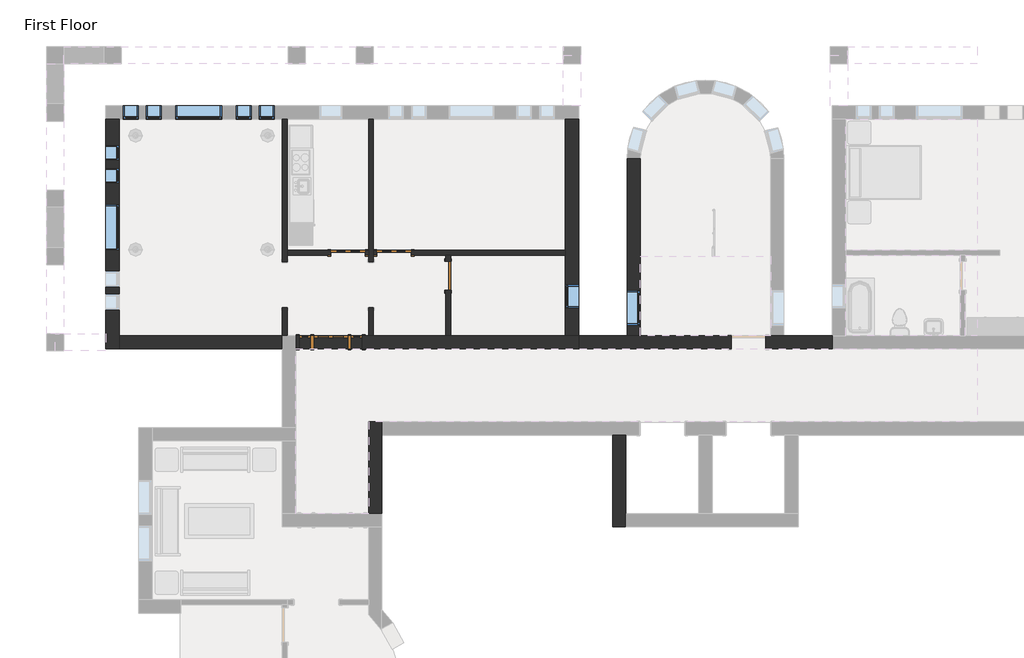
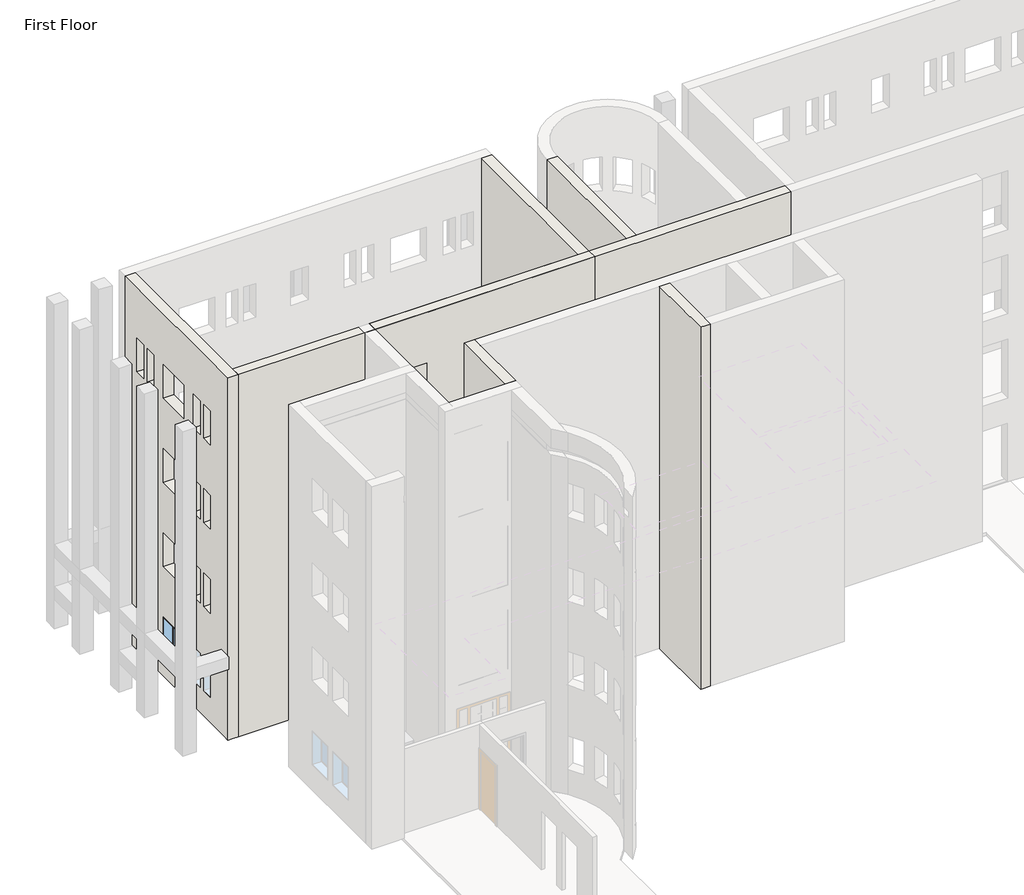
# One storey, part 14 of 24: 12 walls, 10 windows, 4 doors.
"""IFC4 building model written with IfcOpenShell, lengths in millimetres."""

from ifc_helpers import new_model, si_unit, frame, origin, place, context, project, spatial, polyline, outline, extrude, faceted_brep, transform, mapped, element, save
from components import door_829da954, door_2e3b4da2, door_e36758a9, door_ffdb1193, window_da97879f, window_d61ef850, window_ed80354a, window_15c49d37, window_d89bf842

model = new_model("IFC4")

# Units and contexts
model_context = context("Model", 3, world=origin())
ifc_project = project(units=[si_unit("LENGTHUNIT", "METRE", prefix="MILLI")], contexts=[model_context])

# Site, building, storey
site = spatial("IfcSite", under=ifc_project)
building = spatial("IfcBuilding", under=site)
storey = spatial("IfcBuildingStorey", under=building, Name="First Floor", Elevation=0.0)

# Doors
placement = place(None, origin())
door_shape = door_829da954(model_context)
element("IfcDoor", 1, ObjectType="Single-Decorative 2 : 36\" x 84\"", at=placement, inside=storey, context=model_context, shape_type="MappedRepresentation", body=[
    mapped(door_shape, transform((-23201.2839563, 6723.5441867, 0.0), x_axis=(-1.0, 0.0, 0.0), y_axis=(0.0, -1.0, 0.0), z_axis=(0.0, 0.0, 1.0))),
])
door_2_shape = door_2e3b4da2(model_context)
element("IfcDoor", 2, ObjectType="Single-Decorative 2 : 36\" x 84\"", at=placement, inside=storey, context=model_context, shape_type="MappedRepresentation", body=[
    mapped(door_2_shape, transform((-24420.4839563, 6723.5441867, 0.0), x_axis=(1.0, 0.0, 0.0), y_axis=(0.0, 1.0, 0.0), z_axis=(0.0, 0.0, 1.0))),
])
door_3_shape = door_e36758a9(model_context)
element("IfcDoor", 3, ObjectType="Single-Flush : 30\" x 84\"", at=placement, inside=storey, context=model_context, shape_type="MappedRepresentation", body=[
    mapped(door_3_shape, transform((-21764.5964563, 6113.9441867, 0.0), x_axis=(0.0, 1.0, 0.0), y_axis=(-1.0, 0.0, 0.0), z_axis=(0.0, 0.0, 1.0))),
])
door_4_shape = door_ffdb1193(model_context)
element("IfcDoor", 4, ObjectType="Single-Raised Panel with Sidelights : 36\" x 84\"", at=placement, inside=storey, context=model_context, shape_type="MappedRepresentation", body=[
    mapped(door_4_shape, transform((-24877.6839563, 4350.2316867, 0.0), x_axis=(1.0, 0.0, 0.0), y_axis=(0.0, 1.0, 0.0), z_axis=(0.0, 0.0, 1.0))),
])

# Walls
element("IfcWall", 5, ObjectType="Exterior - Brick on Mtl. Stud", at=placement, inside=storey, context=model_context, shape_type="Brep", body=[
    faceted_brep([(-17397.3839563, 1888.0191867, 0.0), (-17397.3839563, -550.3808133, 0.0), (-17397.3839563, -550.3808133, 13106.4), (-17397.3839563, 1888.0191867, 13106.4), (-17044.9589563, 1888.0191867, 0.0), (-17044.9589563, 1888.0191867, 13106.4), (-17044.9589563, -197.9558133, 13106.4), (-17044.9589563, -550.3808133, 13106.4), (-17044.9589563, -550.3808133, 0.0), (-17044.9589563, -197.9558133, 0.0)], [[[0, 1, 2, 3]], [[4, 5, 6, 7, 8, 9]], [[1, 0, 4, 9, 8]], [[3, 2, 7, 6, 5]], [[2, 1, 8, 7]], [[0, 3, 5, 4]]]),
])
element("IfcWall", 6, ObjectType="Exterior - Brick on Mtl. Stud", at=placement, inside=storey, context=model_context, shape_type="SweptSolid", body=[
    extrude(outline(polyline([(4526.4441867, 0.0), (4526.4441867, 13106.4), (9227.0316867, 13106.4), (9227.0316867, 0.0), (4526.4441867, 0.0)]), holes=[polyline([(4807.4316867, 8229.6), (4807.4316867, 7010.4), (5721.8316867, 7010.4), (5721.8316867, 8229.6), (4807.4316867, 8229.6)]), polyline([(4807.4316867, 5181.6), (4807.4316867, 3962.4), (5721.8316867, 3962.4), (5721.8316867, 5181.6), (4807.4316867, 5181.6)]), polyline([(4807.4316867, 11277.6), (4807.4316867, 10058.4), (5721.8316867, 10058.4), (5721.8316867, 11277.6), (4807.4316867, 11277.6)]), polyline([(4807.4316867, 2133.6), (4807.4316867, 914.4), (5721.8316867, 914.4), (5721.8316867, 2133.6), (4807.4316867, 2133.6)])]), frame((-17016.3839563, 0.0, 0.0), z_axis=(1.0, 0.0, 0.0), x_axis=(0.0, 1.0, 0.0)), (0.0, 0.0, 1.0), 352.425),
])
element("IfcWall", 7, ObjectType="Exterior - Brick on Mtl. Stud", at=placement, inside=storey, context=model_context, shape_type="Brep", body=[
    faceted_brep([(-23874.3839563, 2240.4441867, 0.0), (-23874.3839563, -197.9558133, 0.0), (-23874.3839563, -197.9558133, 13106.4), (-23874.3839563, 2240.4441867, 13106.4), (-23521.9589563, 2240.4441867, 0.0), (-23521.9589563, 2240.4441867, 13106.4), (-23521.9589563, 1888.0191867, 13106.4), (-23521.9589563, -197.9558133, 13106.4), (-23521.9589563, -197.9558133, 0.0), (-23521.9589563, 1888.0191867, 0.0)], [[[0, 1, 2, 3]], [[4, 5, 6, 7, 8, 9]], [[1, 0, 4, 9, 8]], [[3, 2, 7, 6, 5]], [[0, 3, 5, 4]], [[2, 1, 8, 7]]]),
])
element("IfcWall", 8, ObjectType="Exterior - Brick on Mtl. Stud", at=placement, inside=storey, context=model_context, shape_type="Brep", body=[
    faceted_brep([(-11571.2589563, 4526.4441867, 0.0), (-12853.9589563, 4526.4441867, 0.0), (-13206.3839563, 4526.4441867, 0.0), (-13334.9714563, 4526.4441867, 0.0), (-13334.9714563, 4526.4441867, 2133.6), (-14249.3714563, 4526.4441867, 2133.6), (-14249.3714563, 4526.4441867, 0.0), (-16663.9589563, 4526.4441867, 0.0), (-17016.3839563, 4526.4441867, 0.0), (-18300.6714563, 4526.4441867, 0.0), (-18653.0964563, 4526.4441867, 0.0), (-21701.0964563, 4526.4441867, 0.0), (-21828.0964563, 4526.4441867, 0.0), (-23747.3839563, 4526.4441867, 0.0), (-23874.3839563, 4526.4441867, 0.0), (-25807.9589563, 4526.4441867, 0.0), (-25807.9589563, 4526.4441867, 13106.4), (-18653.0964563, 4526.4441867, 13106.4), (-18300.6714563, 4526.4441867, 13106.4), (-17016.3839563, 4526.4441867, 13106.4), (-16663.9589563, 4526.4441867, 13106.4), (-13206.3839563, 4526.4441867, 13106.4), (-12853.9589563, 4526.4441867, 13106.4), (-11571.2589563, 4526.4441867, 13106.4), (-14249.3714563, 4526.4441867, 9144.0), (-13334.9714563, 4526.4441867, 9144.0), (-13334.9714563, 4526.4441867, 11277.6), (-14249.3714563, 4526.4441867, 11277.6), (-14249.3714563, 4526.4441867, 3048.0), (-13334.9714563, 4526.4441867, 3048.0), (-13334.9714563, 4526.4441867, 5181.6), (-14249.3714563, 4526.4441867, 5181.6), (-14249.3714563, 4526.4441867, 6096.0), (-13334.9714563, 4526.4441867, 6096.0), (-13334.9714563, 4526.4441867, 8229.6), (-14249.3714563, 4526.4441867, 8229.6), (-13334.9714563, 4174.0191867, 2133.6), (-13334.9714563, 4174.0191867, 0.0), (-11571.2589563, 4174.0191867, 0.0), (-11571.2589563, 4174.0191867, 13106.4), (-25807.9589563, 4174.0191867, 13106.4), (-25807.9589563, 4174.0191867, 0.0), (-14249.3714563, 4174.0191867, 0.0), (-14249.3714563, 4174.0191867, 2133.6), (-14249.3714563, 4174.0191867, 9144.0), (-14249.3714563, 4174.0191867, 11277.6), (-13334.9714563, 4174.0191867, 11277.6), (-13334.9714563, 4174.0191867, 9144.0), (-14249.3714563, 4174.0191867, 3048.0), (-14249.3714563, 4174.0191867, 5181.6), (-13334.9714563, 4174.0191867, 5181.6), (-13334.9714563, 4174.0191867, 3048.0), (-14249.3714563, 4174.0191867, 6096.0), (-14249.3714563, 4174.0191867, 8229.6), (-13334.9714563, 4174.0191867, 8229.6), (-13334.9714563, 4174.0191867, 6096.0)], [[[0, 1, 2, 3, 4, 5, 6, 7, 8, 9, 10, 11, 12, 13, 14, 15, 16, 17, 18, 19, 20, 21, 22, 23], [24, 25, 26, 27], [28, 29, 30, 31], [32, 33, 34, 35]], [[36, 37, 38, 39, 40, 41, 42, 43], [44, 45, 46, 47], [48, 49, 50, 51], [52, 53, 54, 55]], [[38, 37, 3, 2, 1, 0]], [[42, 41, 15, 14, 13, 12, 11, 10, 9, 8, 7, 6]], [[23, 22, 21, 20, 19, 18, 17, 16, 40, 39]], [[0, 23, 39, 38]], [[16, 15, 41, 40]], [[4, 3, 37, 36]], [[5, 4, 36, 43]], [[6, 5, 43, 42]], [[25, 24, 44, 47]], [[26, 25, 47, 46]], [[27, 26, 46, 45]], [[24, 27, 45, 44]], [[29, 28, 48, 51]], [[30, 29, 51, 50]], [[31, 30, 50, 49]], [[28, 31, 49, 48]], [[33, 32, 52, 55]], [[34, 33, 55, 54]], [[35, 34, 54, 53]], [[32, 35, 53, 52]]]),
])
element("IfcWall", 9, ObjectType="Exterior - Brick on Mtl. Stud", at=placement, inside=storey, context=model_context, shape_type="Brep", body=[
    faceted_brep([(-30845.0964563, 10270.0191867, 0.0), (-30845.0964563, 4361.3441867, 0.0), (-30845.0964563, 4174.0191867, 0.0), (-30845.0964563, 4174.0191867, 13106.4), (-30845.0964563, 10270.0191867, 13106.4), (-30845.0964563, 8007.8316867, 2133.6), (-30845.0964563, 6788.6316867, 2133.6), (-30845.0964563, 6788.6316867, 914.4), (-30845.0964563, 8007.8316867, 914.4), (-30845.0964563, 9582.6316867, 2133.6), (-30845.0964563, 9176.2316867, 2133.6), (-30845.0964563, 9176.2316867, 914.4), (-30845.0964563, 9582.6316867, 914.4), (-30845.0964563, 8973.0316867, 2133.6), (-30845.0964563, 8566.6316867, 2133.6), (-30845.0964563, 8566.6316867, 914.4), (-30845.0964563, 8973.0316867, 914.4), (-30845.0964563, 5213.8316867, 2133.6), (-30845.0964563, 5213.8316867, 914.4), (-30845.0964563, 5620.2316867, 914.4), (-30845.0964563, 5620.2316867, 2133.6), (-30845.0964563, 5823.4316867, 2133.6), (-30845.0964563, 5823.4316867, 914.4), (-30845.0964563, 6229.8316867, 914.4), (-30845.0964563, 6229.8316867, 2133.6), (-30845.0964563, 8007.8316867, 11277.6), (-30845.0964563, 6788.6316867, 11277.6), (-30845.0964563, 6788.6316867, 10058.4), (-30845.0964563, 8007.8316867, 10058.4), (-30845.0964563, 9582.6316867, 11277.6), (-30845.0964563, 9176.2316867, 11277.6), (-30845.0964563, 9176.2316867, 10058.4), (-30845.0964563, 9582.6316867, 10058.4), (-30845.0964563, 8973.0316867, 11277.6), (-30845.0964563, 8566.6316867, 11277.6), (-30845.0964563, 8566.6316867, 10058.4), (-30845.0964563, 8973.0316867, 10058.4), (-30845.0964563, 5213.8316867, 11277.6), (-30845.0964563, 5213.8316867, 10058.4), (-30845.0964563, 5620.2316867, 10058.4), (-30845.0964563, 5620.2316867, 11277.6), (-30845.0964563, 5823.4316867, 11277.6), (-30845.0964563, 5823.4316867, 10058.4), (-30845.0964563, 6229.8316867, 10058.4), (-30845.0964563, 6229.8316867, 11277.6), (-30845.0964563, 8007.8316867, 5181.6), (-30845.0964563, 6788.6316867, 5181.6), (-30845.0964563, 6788.6316867, 3962.4), (-30845.0964563, 8007.8316867, 3962.4), (-30845.0964563, 9582.6316867, 5181.6), (-30845.0964563, 9176.2316867, 5181.6), (-30845.0964563, 9176.2316867, 3962.4), (-30845.0964563, 9582.6316867, 3962.4), (-30845.0964563, 8973.0316867, 5181.6), (-30845.0964563, 8566.6316867, 5181.6), (-30845.0964563, 8566.6316867, 3962.4), (-30845.0964563, 8973.0316867, 3962.4), (-30845.0964563, 5213.8316867, 5181.6), (-30845.0964563, 5213.8316867, 3962.4), (-30845.0964563, 5620.2316867, 3962.4), (-30845.0964563, 5620.2316867, 5181.6), (-30845.0964563, 5823.4316867, 5181.6), (-30845.0964563, 5823.4316867, 3962.4), (-30845.0964563, 6229.8316867, 3962.4), (-30845.0964563, 6229.8316867, 5181.6), (-30845.0964563, 8007.8316867, 8229.6), (-30845.0964563, 6788.6316867, 8229.6), (-30845.0964563, 6788.6316867, 7010.4), (-30845.0964563, 8007.8316867, 7010.4), (-30845.0964563, 9582.6316867, 8229.6), (-30845.0964563, 9176.2316867, 8229.6), (-30845.0964563, 9176.2316867, 7010.4), (-30845.0964563, 9582.6316867, 7010.4), (-30845.0964563, 8973.0316867, 8229.6), (-30845.0964563, 8566.6316867, 8229.6), (-30845.0964563, 8566.6316867, 7010.4), (-30845.0964563, 8973.0316867, 7010.4), (-30845.0964563, 5213.8316867, 8229.6), (-30845.0964563, 5213.8316867, 7010.4), (-30845.0964563, 5620.2316867, 7010.4), (-30845.0964563, 5620.2316867, 8229.6), (-30845.0964563, 5823.4316867, 8229.6), (-30845.0964563, 5823.4316867, 7010.4), (-30845.0964563, 6229.8316867, 7010.4), (-30845.0964563, 6229.8316867, 8229.6), (-30492.6714563, 10270.0191867, 0.0), (-30492.6714563, 10270.0191867, 13106.4), (-30492.6714563, 4526.4441867, 13106.4), (-30492.6714563, 4174.0191867, 13106.4), (-30492.6714563, 4174.0191867, 0.0), (-30492.6714563, 4361.3441867, 0.0), (-30492.6714563, 4526.4441867, 0.0), (-30492.6714563, 8007.8316867, 2133.6), (-30492.6714563, 8007.8316867, 914.4), (-30492.6714563, 6788.6316867, 914.4), (-30492.6714563, 6788.6316867, 2133.6), (-30492.6714563, 9582.6316867, 2133.6), (-30492.6714563, 9582.6316867, 914.4), (-30492.6714563, 9176.2316867, 914.4), (-30492.6714563, 9176.2316867, 2133.6), (-30492.6714563, 8973.0316867, 2133.6), (-30492.6714563, 8973.0316867, 914.4), (-30492.6714563, 8566.6316867, 914.4), (-30492.6714563, 8566.6316867, 2133.6), (-30492.6714563, 5213.8316867, 2133.6), (-30492.6714563, 5620.2316867, 2133.6), (-30492.6714563, 5620.2316867, 914.4), (-30492.6714563, 5213.8316867, 914.4), (-30492.6714563, 5823.4316867, 2133.6), (-30492.6714563, 6229.8316867, 2133.6), (-30492.6714563, 6229.8316867, 914.4), (-30492.6714563, 5823.4316867, 914.4), (-30492.6714563, 8007.8316867, 11277.6), (-30492.6714563, 8007.8316867, 10058.4), (-30492.6714563, 6788.6316867, 10058.4), (-30492.6714563, 6788.6316867, 11277.6), (-30492.6714563, 9582.6316867, 11277.6), (-30492.6714563, 9582.6316867, 10058.4), (-30492.6714563, 9176.2316867, 10058.4), (-30492.6714563, 9176.2316867, 11277.6), (-30492.6714563, 8973.0316867, 11277.6), (-30492.6714563, 8973.0316867, 10058.4), (-30492.6714563, 8566.6316867, 10058.4), (-30492.6714563, 8566.6316867, 11277.6), (-30492.6714563, 5213.8316867, 11277.6), (-30492.6714563, 5620.2316867, 11277.6), (-30492.6714563, 5620.2316867, 10058.4), (-30492.6714563, 5213.8316867, 10058.4), (-30492.6714563, 5823.4316867, 11277.6), (-30492.6714563, 6229.8316867, 11277.6), (-30492.6714563, 6229.8316867, 10058.4), (-30492.6714563, 5823.4316867, 10058.4), (-30492.6714563, 8007.8316867, 5181.6), (-30492.6714563, 8007.8316867, 3962.4), (-30492.6714563, 6788.6316867, 3962.4), (-30492.6714563, 6788.6316867, 5181.6), (-30492.6714563, 9582.6316867, 5181.6), (-30492.6714563, 9582.6316867, 3962.4), (-30492.6714563, 9176.2316867, 3962.4), (-30492.6714563, 9176.2316867, 5181.6), (-30492.6714563, 8973.0316867, 5181.6), (-30492.6714563, 8973.0316867, 3962.4), (-30492.6714563, 8566.6316867, 3962.4), (-30492.6714563, 8566.6316867, 5181.6), (-30492.6714563, 5213.8316867, 5181.6), (-30492.6714563, 5620.2316867, 5181.6), (-30492.6714563, 5620.2316867, 3962.4), (-30492.6714563, 5213.8316867, 3962.4), (-30492.6714563, 5823.4316867, 5181.6), (-30492.6714563, 6229.8316867, 5181.6), (-30492.6714563, 6229.8316867, 3962.4), (-30492.6714563, 5823.4316867, 3962.4), (-30492.6714563, 8007.8316867, 8229.6), (-30492.6714563, 8007.8316867, 7010.4), (-30492.6714563, 6788.6316867, 7010.4), (-30492.6714563, 6788.6316867, 8229.6), (-30492.6714563, 9582.6316867, 8229.6), (-30492.6714563, 9582.6316867, 7010.4), (-30492.6714563, 9176.2316867, 7010.4), (-30492.6714563, 9176.2316867, 8229.6), (-30492.6714563, 8973.0316867, 8229.6), (-30492.6714563, 8973.0316867, 7010.4), (-30492.6714563, 8566.6316867, 7010.4), (-30492.6714563, 8566.6316867, 8229.6), (-30492.6714563, 5213.8316867, 8229.6), (-30492.6714563, 5620.2316867, 8229.6), (-30492.6714563, 5620.2316867, 7010.4), (-30492.6714563, 5213.8316867, 7010.4), (-30492.6714563, 5823.4316867, 8229.6), (-30492.6714563, 6229.8316867, 8229.6), (-30492.6714563, 6229.8316867, 7010.4), (-30492.6714563, 5823.4316867, 7010.4), (-30657.7714563, 4174.0191867, 0.0), (-30657.7714563, 10270.0191867, 0.0), (-30657.7714563, 4361.3441867, 0.0)], [[[0, 1, 2, 3, 4], [5, 6, 7, 8], [9, 10, 11, 12], [13, 14, 15, 16], [17, 18, 19, 20], [21, 22, 23, 24], [25, 26, 27, 28], [29, 30, 31, 32], [33, 34, 35, 36], [37, 38, 39, 40], [41, 42, 43, 44], [45, 46, 47, 48], [49, 50, 51, 52], [53, 54, 55, 56], [57, 58, 59, 60], [61, 62, 63, 64], [65, 66, 67, 68], [69, 70, 71, 72], [73, 74, 75, 76], [77, 78, 79, 80], [81, 82, 83, 84]], [[85, 86, 87, 88, 89, 90, 91], [92, 93, 94, 95], [96, 97, 98, 99], [100, 101, 102, 103], [104, 105, 106, 107], [108, 109, 110, 111], [112, 113, 114, 115], [116, 117, 118, 119], [120, 121, 122, 123], [124, 125, 126, 127], [128, 129, 130, 131], [132, 133, 134, 135], [136, 137, 138, 139], [140, 141, 142, 143], [144, 145, 146, 147], [148, 149, 150, 151], [152, 153, 154, 155], [156, 157, 158, 159], [160, 161, 162, 163], [164, 165, 166, 167], [168, 169, 170, 171]], [[4, 3, 88, 87, 86]], [[3, 2, 172, 89, 88]], [[0, 4, 86, 85, 173]], [[90, 89, 172, 174]], [[1, 0, 173, 174]], [[2, 1, 174, 172]], [[173, 85, 91, 90, 174]], [[93, 92, 5, 8]], [[94, 93, 8, 7]], [[95, 94, 7, 6]], [[92, 95, 6, 5]], [[97, 96, 9, 12]], [[98, 97, 12, 11]], [[99, 98, 11, 10]], [[96, 99, 10, 9]], [[101, 100, 13, 16]], [[102, 101, 16, 15]], [[103, 102, 15, 14]], [[100, 103, 14, 13]], [[18, 17, 104, 107]], [[19, 18, 107, 106]], [[20, 19, 106, 105]], [[17, 20, 105, 104]], [[22, 21, 108, 111]], [[23, 22, 111, 110]], [[24, 23, 110, 109]], [[21, 24, 109, 108]], [[113, 112, 25, 28]], [[114, 113, 28, 27]], [[115, 114, 27, 26]], [[112, 115, 26, 25]], [[117, 116, 29, 32]], [[118, 117, 32, 31]], [[119, 118, 31, 30]], [[116, 119, 30, 29]], [[121, 120, 33, 36]], [[122, 121, 36, 35]], [[123, 122, 35, 34]], [[120, 123, 34, 33]], [[38, 37, 124, 127]], [[39, 38, 127, 126]], [[40, 39, 126, 125]], [[37, 40, 125, 124]], [[42, 41, 128, 131]], [[43, 42, 131, 130]], [[44, 43, 130, 129]], [[41, 44, 129, 128]], [[133, 132, 45, 48]], [[134, 133, 48, 47]], [[135, 134, 47, 46]], [[132, 135, 46, 45]], [[137, 136, 49, 52]], [[138, 137, 52, 51]], [[139, 138, 51, 50]], [[136, 139, 50, 49]], [[141, 140, 53, 56]], [[142, 141, 56, 55]], [[143, 142, 55, 54]], [[140, 143, 54, 53]], [[58, 57, 144, 147]], [[59, 58, 147, 146]], [[60, 59, 146, 145]], [[57, 60, 145, 144]], [[62, 61, 148, 151]], [[63, 62, 151, 150]], [[64, 63, 150, 149]], [[61, 64, 149, 148]], [[153, 152, 65, 68]], [[154, 153, 68, 67]], [[155, 154, 67, 66]], [[152, 155, 66, 65]], [[157, 156, 69, 72]], [[158, 157, 72, 71]], [[159, 158, 71, 70]], [[156, 159, 70, 69]], [[161, 160, 73, 76]], [[162, 161, 76, 75]], [[163, 162, 75, 74]], [[160, 163, 74, 73]], [[78, 77, 164, 167]], [[79, 78, 167, 166]], [[80, 79, 166, 165]], [[77, 80, 165, 164]], [[82, 81, 168, 171]], [[83, 82, 171, 170]], [[84, 83, 170, 169]], [[81, 84, 169, 168]]]),
])
element("IfcWall", 10, ObjectType="Exterior - Brick on Mtl. Stud", at=placement, inside=storey, context=model_context, shape_type="Brep", body=[
    faceted_brep([(-24039.4839563, 4174.0191867, 2133.6), (-24039.4839563, 4174.0191867, 0.0), (-18299.0839563, 4174.0191867, 0.0), (-18299.0839563, 4174.0191867, 13106.4), (-30492.6714563, 4174.0191867, 13106.4), (-30492.6714563, 4174.0191867, 0.0), (-25715.8839563, 4174.0191867, 0.0), (-25715.8839563, 4174.0191867, 2133.6), (-25715.8839563, 4174.0191867, 9144.0), (-25715.8839563, 4174.0191867, 11277.6), (-24039.4839563, 4174.0191867, 11277.6), (-24039.4839563, 4174.0191867, 9144.0), (-25715.8839563, 4174.0191867, 3048.0), (-25715.8839563, 4174.0191867, 5181.6), (-24039.4839563, 4174.0191867, 5181.6), (-24039.4839563, 4174.0191867, 3048.0), (-25715.8839563, 4174.0191867, 6096.0), (-25715.8839563, 4174.0191867, 8229.6), (-24039.4839563, 4174.0191867, 8229.6), (-24039.4839563, 4174.0191867, 6096.0), (-18299.0839563, 4526.4441867, 0.0), (-18300.6714563, 4526.4441867, 0.0), (-18653.0964563, 4526.4441867, 0.0), (-21701.0964563, 4526.4441867, 0.0), (-21828.0964563, 4526.4441867, 0.0), (-23747.3839563, 4526.4441867, 0.0), (-23874.3839563, 4526.4441867, 0.0), (-24039.4839563, 4526.4441867, 0.0), (-24039.4839563, 4526.4441867, 2133.6), (-25715.8839563, 4526.4441867, 2133.6), (-25715.8839563, 4526.4441867, 0.0), (-26033.3839563, 4526.4441867, 0.0), (-26160.3839563, 4526.4441867, 0.0), (-30492.6714563, 4526.4441867, 0.0), (-30492.6714563, 4526.4441867, 13106.4), (-18653.0964563, 4526.4441867, 13106.4), (-18300.6714563, 4526.4441867, 13106.4), (-18299.0839563, 4526.4441867, 13106.4), (-25715.8839563, 4526.4441867, 9144.0), (-24039.4839563, 4526.4441867, 9144.0), (-24039.4839563, 4526.4441867, 11277.6), (-25715.8839563, 4526.4441867, 11277.6), (-25715.8839563, 4526.4441867, 3048.0), (-24039.4839563, 4526.4441867, 3048.0), (-24039.4839563, 4526.4441867, 5181.6), (-25715.8839563, 4526.4441867, 5181.6), (-25715.8839563, 4526.4441867, 6096.0), (-24039.4839563, 4526.4441867, 6096.0), (-24039.4839563, 4526.4441867, 8229.6), (-25715.8839563, 4526.4441867, 8229.6)], [[[0, 1, 2, 3, 4, 5, 6, 7], [8, 9, 10, 11], [12, 13, 14, 15], [16, 17, 18, 19]], [[20, 21, 22, 23, 24, 25, 26, 27, 28, 29, 30, 31, 32, 33, 34, 35, 36, 37], [38, 39, 40, 41], [42, 43, 44, 45], [46, 47, 48, 49]], [[2, 1, 27, 26, 25, 24, 23, 22, 21, 20]], [[6, 5, 33, 32, 31, 30]], [[3, 2, 20, 37]], [[4, 3, 37, 36, 35, 34]], [[5, 4, 34, 33]], [[28, 27, 1, 0]], [[29, 28, 0, 7]], [[30, 29, 7, 6]], [[39, 38, 8, 11]], [[40, 39, 11, 10]], [[41, 40, 10, 9]], [[38, 41, 9, 8]], [[43, 42, 12, 15]], [[44, 43, 15, 14]], [[45, 44, 14, 13]], [[42, 45, 13, 12]], [[47, 46, 16, 19]], [[48, 47, 19, 18]], [[49, 48, 18, 17]], [[46, 49, 17, 16]]]),
])
element("IfcWall", 11, ObjectType="Exterior - Brick on Mtl. Stud", at=placement, inside=storey, context=model_context, shape_type="Brep", body=[
    faceted_brep([(-18300.6714563, 4526.4441867, 0.0), (-18300.6714563, 10270.0191867, 0.0), (-18300.6714563, 10270.0191867, 13106.4), (-18300.6714563, 4526.4441867, 13106.4), (-18300.6714563, 5264.6316867, 8229.6), (-18300.6714563, 5874.2316867, 8229.6), (-18300.6714563, 5874.2316867, 7010.4), (-18300.6714563, 5264.6316867, 7010.4), (-18300.6714563, 5264.6316867, 5181.6), (-18300.6714563, 5874.2316867, 5181.6), (-18300.6714563, 5874.2316867, 3962.4), (-18300.6714563, 5264.6316867, 3962.4), (-18300.6714563, 5264.6316867, 11277.6), (-18300.6714563, 5874.2316867, 11277.6), (-18300.6714563, 5874.2316867, 10058.4), (-18300.6714563, 5264.6316867, 10058.4), (-18300.6714563, 5264.6316867, 2133.6), (-18300.6714563, 5874.2316867, 2133.6), (-18300.6714563, 5874.2316867, 914.4), (-18300.6714563, 5264.6316867, 914.4), (-18653.0964563, 4526.4441867, 0.0), (-18653.0964563, 4526.4441867, 13106.4), (-18653.0964563, 10270.0191867, 13106.4), (-18653.0964563, 10270.0191867, 0.0), (-18653.0964563, 6787.0441867, 0.0), (-18653.0964563, 6660.0441867, 0.0), (-18653.0964563, 5264.6316867, 8229.6), (-18653.0964563, 5264.6316867, 7010.4), (-18653.0964563, 5874.2316867, 7010.4), (-18653.0964563, 5874.2316867, 8229.6), (-18653.0964563, 5264.6316867, 5181.6), (-18653.0964563, 5264.6316867, 3962.4), (-18653.0964563, 5874.2316867, 3962.4), (-18653.0964563, 5874.2316867, 5181.6), (-18653.0964563, 5264.6316867, 11277.6), (-18653.0964563, 5264.6316867, 10058.4), (-18653.0964563, 5874.2316867, 10058.4), (-18653.0964563, 5874.2316867, 11277.6), (-18653.0964563, 5264.6316867, 2133.6), (-18653.0964563, 5264.6316867, 914.4), (-18653.0964563, 5874.2316867, 914.4), (-18653.0964563, 5874.2316867, 2133.6), (-18487.9964563, 4526.4441867, 0.0), (-18487.9964563, 10270.0191867, 0.0)], [[[0, 1, 2, 3], [4, 5, 6, 7], [8, 9, 10, 11], [12, 13, 14, 15], [16, 17, 18, 19]], [[20, 21, 22, 23, 24, 25], [26, 27, 28, 29], [30, 31, 32, 33], [34, 35, 36, 37], [38, 39, 40, 41]], [[3, 2, 22, 21]], [[0, 3, 21, 20, 42]], [[2, 1, 43, 23, 22]], [[1, 0, 42, 43]], [[42, 20, 25, 24, 23, 43]], [[27, 26, 4, 7]], [[28, 27, 7, 6]], [[29, 28, 6, 5]], [[26, 29, 5, 4]], [[31, 30, 8, 11]], [[32, 31, 11, 10]], [[33, 32, 10, 9]], [[30, 33, 9, 8]], [[35, 34, 12, 15]], [[36, 35, 15, 14]], [[37, 36, 14, 13]], [[34, 37, 13, 12]], [[39, 38, 16, 19]], [[40, 39, 19, 18]], [[41, 40, 18, 17]], [[38, 41, 17, 16]]]),
])
element("IfcWall", 12, ObjectType="Interior - 5\" Partition (2-hr)", at=placement, inside=storey, context=model_context, shape_type="Brep", body=[
    faceted_brep([(-26160.3839563, 10270.0191867, 0.0), (-26160.3839563, 6483.8316867, 0.0), (-26160.3839563, 6483.8316867, 2133.6), (-26160.3839563, 5264.6316867, 2133.6), (-26160.3839563, 5264.6316867, 0.0), (-26160.3839563, 4526.4441867, 0.0), (-26160.3839563, 4526.4441867, 3048.0), (-26160.3839563, 10270.0191867, 3048.0), (-26033.3839563, 6483.8316867, 2133.6), (-26033.3839563, 6483.8316867, 0.0), (-26033.3839563, 6660.0441867, 0.0), (-26033.3839563, 6787.0441867, 0.0), (-26033.3839563, 10270.0191867, 0.0), (-26033.3839563, 10270.0191867, 3048.0), (-26033.3839563, 6787.0441867, 3048.0), (-26033.3839563, 6660.0441867, 3048.0), (-26033.3839563, 4526.4441867, 3048.0), (-26033.3839563, 4526.4441867, 0.0), (-26033.3839563, 5264.6316867, 0.0), (-26033.3839563, 5264.6316867, 2133.6)], [[[0, 1, 2, 3, 4, 5, 6, 7]], [[8, 9, 10, 11, 12, 13, 14, 15, 16, 17, 18, 19]], [[12, 11, 10, 9, 1, 0]], [[18, 17, 5, 4]], [[7, 6, 16, 15, 14, 13]], [[0, 7, 13, 12]], [[6, 5, 17, 16]], [[4, 3, 19, 18]], [[2, 1, 9, 8]], [[3, 2, 8, 19]]]),
])
element("IfcWall", 13, ObjectType="Interior - 5\" Partition (2-hr)", at=placement, inside=storey, context=model_context, shape_type="Brep", body=[
    faceted_brep([(-23874.3839563, 5264.6316867, 2133.6), (-23874.3839563, 5264.6316867, 0.0), (-23874.3839563, 4526.4441867, 0.0), (-23874.3839563, 4526.4441867, 3048.0), (-23874.3839563, 6660.0441867, 3048.0), (-23874.3839563, 6787.0441867, 3048.0), (-23874.3839563, 10270.0191867, 3048.0), (-23874.3839563, 10270.0191867, 0.0), (-23874.3839563, 6787.0441867, 0.0), (-23874.3839563, 6660.0441867, 0.0), (-23874.3839563, 6483.8316867, 0.0), (-23874.3839563, 6483.8316867, 2133.6), (-23747.3839563, 4526.4441867, 0.0), (-23747.3839563, 5264.6316867, 0.0), (-23747.3839563, 5264.6316867, 2133.6), (-23747.3839563, 6483.8316867, 2133.6), (-23747.3839563, 6483.8316867, 0.0), (-23747.3839563, 6660.0441867, 0.0), (-23747.3839563, 6787.0441867, 0.0), (-23747.3839563, 10270.0191867, 0.0), (-23747.3839563, 10270.0191867, 3048.0), (-23747.3839563, 6787.0441867, 3048.0), (-23747.3839563, 6660.0441867, 3048.0), (-23747.3839563, 4526.4441867, 3048.0)], [[[0, 1, 2, 3, 4, 5, 6, 7, 8, 9, 10, 11]], [[12, 13, 14, 15, 16, 17, 18, 19, 20, 21, 22, 23]], [[2, 1, 13, 12]], [[10, 9, 8, 7, 19, 18, 17, 16]], [[6, 5, 4, 3, 23, 22, 21, 20]], [[7, 6, 20, 19]], [[3, 2, 12, 23]], [[16, 15, 11, 10]], [[14, 13, 1, 0]], [[15, 14, 0, 11]]]),
])
element("IfcWall", 14, ObjectType="Interior - 5\" Partition (2-hr)", at=placement, inside=storey, context=model_context, shape_type="Brep", body=[
    faceted_brep([(-23658.4839563, 6787.0441867, 2133.6), (-23658.4839563, 6787.0441867, 0.0), (-23747.3839563, 6787.0441867, 0.0), (-23747.3839563, 6787.0441867, 3048.0), (-18653.0964563, 6787.0441867, 3048.0), (-18653.0964563, 6787.0441867, 0.0), (-22744.0839563, 6787.0441867, 0.0), (-22744.0839563, 6787.0441867, 2133.6), (-23747.3839563, 6660.0441867, 0.0), (-23658.4839563, 6660.0441867, 0.0), (-23658.4839563, 6660.0441867, 2133.6), (-22744.0839563, 6660.0441867, 2133.6), (-22744.0839563, 6660.0441867, 0.0), (-21828.0964563, 6660.0441867, 0.0), (-21701.0964563, 6660.0441867, 0.0), (-18653.0964563, 6660.0441867, 0.0), (-18653.0964563, 6660.0441867, 3048.0), (-21701.0964563, 6660.0441867, 3048.0), (-21828.0964563, 6660.0441867, 3048.0), (-23747.3839563, 6660.0441867, 3048.0)], [[[0, 1, 2, 3, 4, 5, 6, 7]], [[8, 9, 10, 11, 12, 13, 14, 15, 16, 17, 18, 19]], [[2, 1, 9, 8]], [[6, 5, 15, 14, 13, 12]], [[4, 3, 19, 18, 17, 16]], [[5, 4, 16, 15]], [[3, 2, 8, 19]], [[10, 9, 1, 0]], [[11, 10, 0, 7]], [[12, 11, 7, 6]]]),
])
element("IfcWall", 15, ObjectType="Interior - 5\" Partition (2-hr)", at=placement, inside=storey, context=model_context, shape_type="SweptSolid", body=[
    extrude(outline(polyline([(6660.0441867, 0.0), (6494.9441867, 0.0), (6494.9441867, 2133.6), (5732.9441867, 2133.6), (5732.9441867, 0.0), (4526.4441867, 0.0), (4526.4441867, 3048.0), (6660.0441867, 3048.0), (6660.0441867, 0.0)])), frame((-21828.0964563, 0.0, 0.0), z_axis=(1.0, 0.0, 0.0), x_axis=(0.0, 1.0, 0.0)), (0.0, 0.0, 1.0), 127.0),
])
element("IfcWall", 16, ObjectType="Interior - 5\" Partition (2-hr)", at=placement, inside=storey, context=model_context, shape_type="SweptSolid", body=[
    extrude(outline(polyline([(2133.6, -23963.2839563), (0.0, -23963.2839563), (0.0, -23874.3839563), (3048.0, -23874.3839563), (3048.0, -26033.3839563), (0.0, -26033.3839563), (0.0, -24877.6839563), (2133.6, -24877.6839563), (2133.6, -23963.2839563)])), frame((0.0, 6660.0441867, 0.0), z_axis=(0.0, 1.0, 0.0), x_axis=(0.0, 0.0, 1.0)), (0.0, 0.0, 1.0), 127.0),
])

# Windows
window_shape = window_da97879f(model_context)
element("IfcWindow", 17, ObjectType="Fixed : 16\" x 48\"", at=placement, inside=storey, context=model_context, shape_type="MappedRepresentation", body=[
    mapped(window_shape, transform((-30224.3839563, 10446.2316867, 0.0), x_axis=(-1.0, 0.0, 0.0), y_axis=(0.0, -1.0, 0.0), z_axis=(0.0, 0.0, 1.0))),
])
element("IfcWindow", 18, ObjectType="Fixed : 16\" x 48\"", at=placement, inside=storey, context=model_context, shape_type="MappedRepresentation", body=[
    mapped(window_shape, transform((-29614.7839563, 10446.2316867, 0.0), x_axis=(-1.0, 0.0, 0.0), y_axis=(0.0, -1.0, 0.0), z_axis=(0.0, 0.0, 1.0))),
])
window_2_shape = window_d61ef850(model_context)
element("IfcWindow", 19, ObjectType="Fixed : 16\" x 48\"", at=placement, inside=storey, context=model_context, shape_type="MappedRepresentation", body=[
    mapped(window_2_shape, transform((-26541.3839563, 10446.2316867, 0.0), x_axis=(1.0, 0.0, 0.0), y_axis=(0.0, 1.0, 0.0), z_axis=(0.0, 0.0, 1.0))),
])
element("IfcWindow", 20, ObjectType="Fixed : 16\" x 48\"", at=placement, inside=storey, context=model_context, shape_type="MappedRepresentation", body=[
    mapped(window_2_shape, transform((-27150.9839563, 10446.2316867, 0.0), x_axis=(1.0, 0.0, 0.0), y_axis=(0.0, 1.0, 0.0), z_axis=(0.0, 0.0, 1.0))),
])
element("IfcWindow", 21, ObjectType="Fixed : 16\" x 48\"", at=placement, inside=storey, context=model_context, shape_type="MappedRepresentation", body=[
    mapped(window_2_shape, transform((-30668.8839563, 9417.5316867, 0.0), x_axis=(0.0, 1.0, 0.0), y_axis=(-1.0, 0.0, 0.0), z_axis=(0.0, 0.0, 1.0))),
])
element("IfcWindow", 22, ObjectType="Fixed : 16\" x 48\"", at=placement, inside=storey, context=model_context, shape_type="MappedRepresentation", body=[
    mapped(window_2_shape, transform((-30668.8839563, 8807.9316867, 0.0), x_axis=(0.0, 1.0, 0.0), y_axis=(-1.0, 0.0, 0.0), z_axis=(0.0, 0.0, 1.0))),
])
window_3_shape = window_ed80354a(model_context)
element("IfcWindow", 23, ObjectType="Fixed : 24\" x 48\"", at=placement, inside=storey, context=model_context, shape_type="MappedRepresentation", body=[
    mapped(window_3_shape, transform((-18476.8839563, 5531.3316867, 0.0), x_axis=(0.0, -1.0, 0.0), y_axis=(1.0, 0.0, 0.0), z_axis=(0.0, 0.0, 1.0))),
])
window_4_shape = window_15c49d37(model_context)
element("IfcWindow", 24, ObjectType="Fixed : 36\" x 48\"", at=placement, inside=storey, context=model_context, shape_type="MappedRepresentation", body=[
    mapped(window_4_shape, transform((-16840.1714563, 5226.5316867, 0.0), x_axis=(0.0, -1.0, 0.0), y_axis=(1.0, 0.0, 0.0), z_axis=(0.0, 0.0, 1.0))),
])
window_5_shape = window_d89bf842(model_context)
element("IfcWindow", 25, ObjectType="Fixed : 48\" x 48\"", at=placement, inside=storey, context=model_context, shape_type="MappedRepresentation", body=[
    mapped(window_5_shape, transform((-28344.7839563, 10446.2316867, 0.0), x_axis=(1.0, 0.0, 0.0), y_axis=(0.0, 1.0, 0.0), z_axis=(0.0, 0.0, 1.0))),
])
element("IfcWindow", 26, ObjectType="Fixed : 48\" x 48\"", at=placement, inside=storey, context=model_context, shape_type="MappedRepresentation", body=[
    mapped(window_5_shape, transform((-30668.8839563, 7436.3316867, 0.0), x_axis=(0.0, 1.0, 0.0), y_axis=(-1.0, 0.0, 0.0), z_axis=(0.0, 0.0, 1.0))),
])

save(model, "model.ifc")
